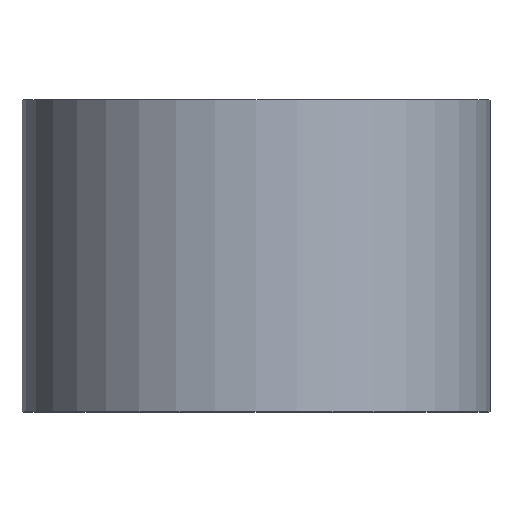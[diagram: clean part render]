
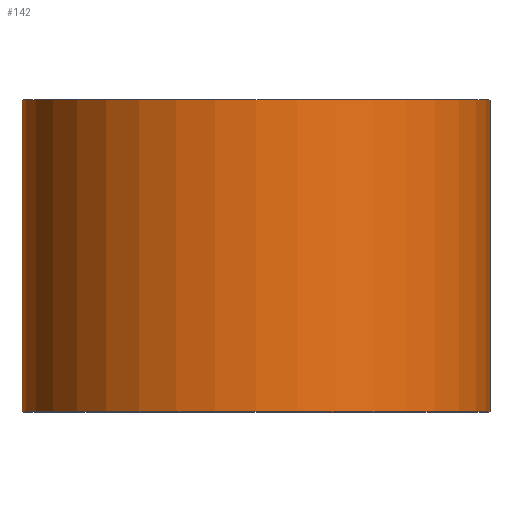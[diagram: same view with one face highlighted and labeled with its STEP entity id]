
A CAD part, top view. The second image highlights one B-rep face of the part: STEP entity #142.
In plain terms, the highlighted cylindrical face has radius 15 mm (diameter 30 mm), a partial arc.
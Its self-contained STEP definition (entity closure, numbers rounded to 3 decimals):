
#6 = DIRECTION ( 'NONE',  ( -1., 0., 0. ) ) ;
#15 = ORIENTED_EDGE ( 'NONE', *, *, #283, .T. ) ;
#21 = AXIS2_PLACEMENT_3D ( 'NONE', #60, #108, #268 ) ;
#30 = DIRECTION ( 'NONE',  ( 0., 1., 0. ) ) ;
#37 = CARTESIAN_POINT ( 'NONE',  ( -15., 20., 0. ) ) ;
#47 = EDGE_LOOP ( 'NONE', ( #15, #140, #201, #247 ) ) ;
#57 = VECTOR ( 'NONE', #30, 1000. ) ;
#60 = CARTESIAN_POINT ( 'NONE',  ( 0., 0., 0. ) ) ;
#105 = DIRECTION ( 'NONE',  ( -1., 0., 0. ) ) ;
#108 = DIRECTION ( 'NONE',  ( 0., 1., 0. ) ) ;
#119 = CARTESIAN_POINT ( 'NONE',  ( 15., 0., 0. ) ) ;
#140 = ORIENTED_EDGE ( 'NONE', *, *, #172, .T. ) ;
#142 = ADVANCED_FACE ( 'NONE', ( #179 ), #159, .T. ) ;
#150 = LINE ( 'NONE', #193, #57 ) ;
#157 = VERTEX_POINT ( 'NONE', #261 ) ;
#158 = EDGE_CURVE ( 'NONE', #157, #272, #150, .T. ) ;
#159 = CYLINDRICAL_SURFACE ( 'NONE', #257, 15. ) ;
#164 = VERTEX_POINT ( 'NONE', #119 ) ;
#168 = CARTESIAN_POINT ( 'NONE',  ( 0., 0., 0. ) ) ;
#172 = EDGE_CURVE ( 'NONE', #164, #289, #183, .T. ) ;
#174 = DIRECTION ( 'NONE',  ( 0., 1., 0. ) ) ;
#179 = FACE_OUTER_BOUND ( 'NONE', #47, .T. ) ;
#183 = LINE ( 'NONE', #242, #262 ) ;
#184 = EDGE_CURVE ( 'NONE', #272, #289, #209, .T. ) ;
#193 = CARTESIAN_POINT ( 'NONE',  ( -15., 0., 0. ) ) ;
#198 = CARTESIAN_POINT ( 'NONE',  ( 0., 20., 0. ) ) ;
#201 = ORIENTED_EDGE ( 'NONE', *, *, #184, .F. ) ;
#207 = AXIS2_PLACEMENT_3D ( 'NONE', #198, #244, #105 ) ;
#209 = CIRCLE ( 'NONE', #207, 15. ) ;
#242 = CARTESIAN_POINT ( 'NONE',  ( 15., 0., 0. ) ) ;
#244 = DIRECTION ( 'NONE',  ( 0., 1., 0. ) ) ;
#247 = ORIENTED_EDGE ( 'NONE', *, *, #158, .F. ) ;
#257 = AXIS2_PLACEMENT_3D ( 'NONE', #168, #287, #6 ) ;
#259 = CIRCLE ( 'NONE', #21, 15. ) ;
#261 = CARTESIAN_POINT ( 'NONE',  ( -15., 0., 0. ) ) ;
#262 = VECTOR ( 'NONE', #174, 1000. ) ;
#268 = DIRECTION ( 'NONE',  ( -1., 0., 0. ) ) ;
#272 = VERTEX_POINT ( 'NONE', #37 ) ;
#283 = EDGE_CURVE ( 'NONE', #157, #164, #259, .T. ) ;
#287 = DIRECTION ( 'NONE',  ( 0., 1., 0. ) ) ;
#289 = VERTEX_POINT ( 'NONE', #292 ) ;
#292 = CARTESIAN_POINT ( 'NONE',  ( 15., 20., 0. ) ) ;
